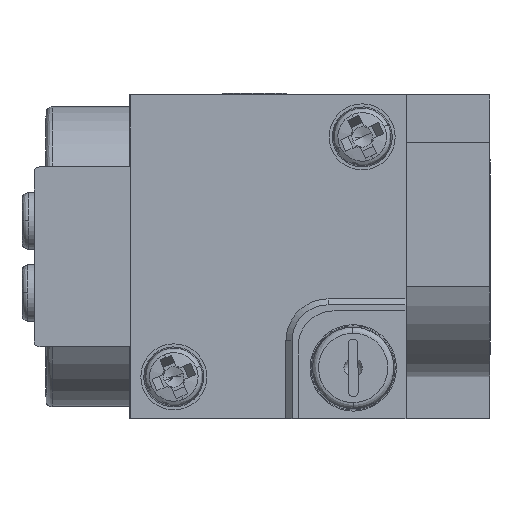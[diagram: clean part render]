
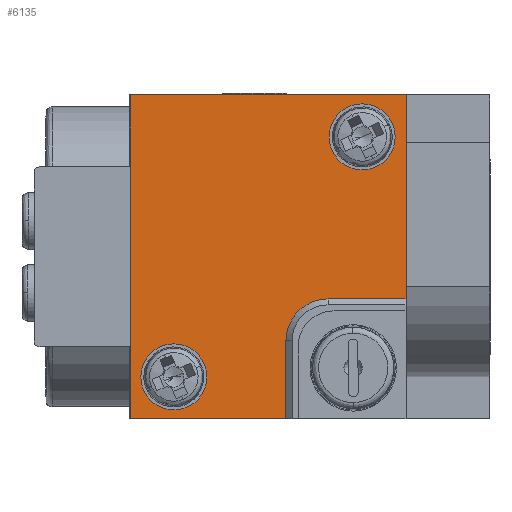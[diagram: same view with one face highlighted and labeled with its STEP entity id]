
A CAD part, left-side view. The second image highlights one B-rep face of the part: STEP entity #6135.
In plain terms, the highlighted planar face has unit normal (-1, 0, 0) as drawn and (0, 0, 1) by its records, which use the part's own axes.
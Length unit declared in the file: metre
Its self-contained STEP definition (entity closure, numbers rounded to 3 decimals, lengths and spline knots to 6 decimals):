
#193 = ORIENTED_EDGE ( 'NONE', *, *, #11101, .F. ) ;
#241 = ORIENTED_EDGE ( 'NONE', *, *, #893, .T. ) ;
#455 = CARTESIAN_POINT ( 'NONE',  ( -0.0035, 0.021, 0.006 ) ) ;
#564 = ORIENTED_EDGE ( 'NONE', *, *, #10723, .F. ) ;
#602 = AXIS2_PLACEMENT_3D ( 'NONE', #10047, #10377, #10396 ) ;
#672 = LINE ( 'NONE', #3503, #7273 ) ;
#893 = EDGE_CURVE ( 'NONE', #7218, #2444, #2380, .T. ) ;
#957 = CARTESIAN_POINT ( 'NONE',  ( 0., 0.021, 0.006 ) ) ;
#1111 = CIRCLE ( 'NONE', #11277, 0.00275 ) ;
#1372 = VERTEX_POINT ( 'NONE', #4008 ) ;
#1379 = CARTESIAN_POINT ( 'NONE',  ( -0.0035, 0.0275, 0.006 ) ) ;
#1506 = CARTESIAN_POINT ( 'NONE',  ( -0.007, 0.031, 0.006 ) ) ;
#1661 = VECTOR ( 'NONE', #1916, 1. ) ;
#1916 = DIRECTION ( 'NONE',  ( 0., 1., 0. ) ) ;
#2041 = CARTESIAN_POINT ( 'NONE',  ( 0.01, 0.02465, 0.006 ) ) ;
#2340 = VECTOR ( 'NONE', #2705, 1. ) ;
#2380 = CIRCLE ( 'NONE', #2924, 0.00275 ) ;
#2444 = VERTEX_POINT ( 'NONE', #10722 ) ;
#2532 = CARTESIAN_POINT ( 'NONE',  ( -0.0035, 0.0325, 0.006 ) ) ;
#2551 = CARTESIAN_POINT ( 'NONE',  ( -0.01, 0.04035, 0.006 ) ) ;
#2579 = FACE_OUTER_BOUND ( 'NONE', #4103, .T. ) ;
#2617 = AXIS2_PLACEMENT_3D ( 'NONE', #10543, #5326, #11421 ) ;
#2697 = CARTESIAN_POINT ( 'NONE',  ( -0.01, 0.04035, 0.006 ) ) ;
#2705 = DIRECTION ( 'NONE',  ( 0., -1., 0. ) ) ;
#2812 = EDGE_CURVE ( 'NONE', #9754, #6349, #4341, .T. ) ;
#2924 = AXIS2_PLACEMENT_3D ( 'NONE', #5109, #4948, #5610 ) ;
#2935 = DIRECTION ( 'NONE',  ( 1., 0., 0. ) ) ;
#3030 = VERTEX_POINT ( 'NONE', #5803 ) ;
#3120 = DIRECTION ( 'NONE',  ( 0., -1., 0. ) ) ;
#3235 = CARTESIAN_POINT ( 'NONE',  ( -0.01275, 0.04035, 0.006 ) ) ;
#3333 = ORIENTED_EDGE ( 'NONE', *, *, #7721, .T. ) ;
#3362 = LINE ( 'NONE', #6595, #10032 ) ;
#3404 = DIRECTION ( 'NONE',  ( 1., 0., 0. ) ) ;
#3503 = CARTESIAN_POINT ( 'NONE',  ( 0., 0.044, 0.006 ) ) ;
#3532 = VECTOR ( 'NONE', #3654, 1. ) ;
#3559 = DIRECTION ( 'NONE',  ( 1., 0., 0. ) ) ;
#3654 = DIRECTION ( 'NONE',  ( 1., 0., 0. ) ) ;
#3921 = CARTESIAN_POINT ( 'NONE',  ( -0.0135, 0.044, 0.006 ) ) ;
#4008 = CARTESIAN_POINT ( 'NONE',  ( 0.0135, 0.021, 0.006 ) ) ;
#4038 = EDGE_CURVE ( 'NONE', #2444, #7218, #1111, .T. ) ;
#4103 = EDGE_LOOP ( 'NONE', ( #11183, #3333, #7930, #8853, #4372, #5328, #7492 ) ) ;
#4241 = EDGE_LOOP ( 'NONE', ( #564, #193 ) ) ;
#4341 = LINE ( 'NONE', #2532, #2340 ) ;
#4372 = ORIENTED_EDGE ( 'NONE', *, *, #2812, .T. ) ;
#4603 = CIRCLE ( 'NONE', #9263, 0.00275 ) ;
#4882 = FACE_BOUND ( 'NONE', #4241, .T. ) ;
#4948 = DIRECTION ( 'NONE',  ( 0., 0., -1. ) ) ;
#5109 = CARTESIAN_POINT ( 'NONE',  ( 0.01, 0.02465, 0.006 ) ) ;
#5271 = DIRECTION ( 'NONE',  ( -1., 0., 0. ) ) ;
#5326 = DIRECTION ( 'NONE',  ( 0., 0., -1. ) ) ;
#5328 = ORIENTED_EDGE ( 'NONE', *, *, #10809, .T. ) ;
#5427 = CARTESIAN_POINT ( 'NONE',  ( 0.0135, 0.0325, 0.006 ) ) ;
#5476 = VERTEX_POINT ( 'NONE', #1506 ) ;
#5603 = CIRCLE ( 'NONE', #2617, 0.0035 ) ;
#5610 = DIRECTION ( 'NONE',  ( 1., 0., 0. ) ) ;
#5803 = CARTESIAN_POINT ( 'NONE',  ( 0.0135, 0.044, 0.006 ) ) ;
#5939 = ORIENTED_EDGE ( 'NONE', *, *, #4038, .T. ) ;
#6119 = LINE ( 'NONE', #5427, #1661 ) ;
#6135 = ADVANCED_FACE ( 'NONE', ( #4882, #6967, #2579 ), #10336, .T. ) ;
#6349 = VERTEX_POINT ( 'NONE', #455 ) ;
#6543 = CARTESIAN_POINT ( 'NONE',  ( -0.0135, 0.031, 0.006 ) ) ;
#6595 = CARTESIAN_POINT ( 'NONE',  ( -0.0135, 0.0325, 0.006 ) ) ;
#6809 = AXIS2_PLACEMENT_3D ( 'NONE', #2697, #8785, #3559 ) ;
#6840 = CARTESIAN_POINT ( 'NONE',  ( 0.00725, 0.02465, 0.006 ) ) ;
#6923 = VERTEX_POINT ( 'NONE', #3921 ) ;
#6967 = FACE_BOUND ( 'NONE', #10407, .T. ) ;
#7039 = DIRECTION ( 'NONE',  ( 1., 0., 0. ) ) ;
#7139 = VERTEX_POINT ( 'NONE', #6543 ) ;
#7218 = VERTEX_POINT ( 'NONE', #6840 ) ;
#7273 = VECTOR ( 'NONE', #5271, 1. ) ;
#7492 = ORIENTED_EDGE ( 'NONE', *, *, #7865, .T. ) ;
#7526 = CARTESIAN_POINT ( 'NONE',  ( -0.00725, 0.04035, 0.006 ) ) ;
#7721 = EDGE_CURVE ( 'NONE', #6923, #7139, #3362, .T. ) ;
#7865 = EDGE_CURVE ( 'NONE', #1372, #3030, #6119, .T. ) ;
#7930 = ORIENTED_EDGE ( 'NONE', *, *, #11173, .T. ) ;
#8180 = DIRECTION ( 'NONE',  ( 0., 0., -1. ) ) ;
#8653 = DIRECTION ( 'NONE',  ( 0., 0., 1. ) ) ;
#8716 = LINE ( 'NONE', #10468, #10490 ) ;
#8785 = DIRECTION ( 'NONE',  ( 0., 0., 1. ) ) ;
#8853 = ORIENTED_EDGE ( 'NONE', *, *, #11219, .T. ) ;
#8993 = CIRCLE ( 'NONE', #6809, 0.00275 ) ;
#9263 = AXIS2_PLACEMENT_3D ( 'NONE', #2551, #8653, #3404 ) ;
#9754 = VERTEX_POINT ( 'NONE', #1379 ) ;
#10026 = EDGE_CURVE ( 'NONE', #3030, #6923, #672, .T. ) ;
#10032 = VECTOR ( 'NONE', #3120, 1. ) ;
#10047 = CARTESIAN_POINT ( 'NONE',  ( -0.0135, 0.021, 0.006 ) ) ;
#10217 = LINE ( 'NONE', #957, #3532 ) ;
#10336 = PLANE ( 'NONE',  #602 ) ;
#10377 = DIRECTION ( 'NONE',  ( 0., 0., 1. ) ) ;
#10396 = DIRECTION ( 'NONE',  ( 1., 0., 0. ) ) ;
#10407 = EDGE_LOOP ( 'NONE', ( #5939, #241 ) ) ;
#10468 = CARTESIAN_POINT ( 'NONE',  ( 0., 0.031, 0.006 ) ) ;
#10490 = VECTOR ( 'NONE', #7039, 1. ) ;
#10543 = CARTESIAN_POINT ( 'NONE',  ( -0.007, 0.0275, 0.006 ) ) ;
#10722 = CARTESIAN_POINT ( 'NONE',  ( 0.01275, 0.02465, 0.006 ) ) ;
#10723 = EDGE_CURVE ( 'NONE', #11503, #11017, #8993, .T. ) ;
#10809 = EDGE_CURVE ( 'NONE', #6349, #1372, #10217, .T. ) ;
#11017 = VERTEX_POINT ( 'NONE', #3235 ) ;
#11101 = EDGE_CURVE ( 'NONE', #11017, #11503, #4603, .T. ) ;
#11173 = EDGE_CURVE ( 'NONE', #7139, #5476, #8716, .T. ) ;
#11183 = ORIENTED_EDGE ( 'NONE', *, *, #10026, .T. ) ;
#11219 = EDGE_CURVE ( 'NONE', #5476, #9754, #5603, .T. ) ;
#11277 = AXIS2_PLACEMENT_3D ( 'NONE', #2041, #8180, #2935 ) ;
#11421 = DIRECTION ( 'NONE',  ( 0., 1., 0. ) ) ;
#11503 = VERTEX_POINT ( 'NONE', #7526 ) ;
